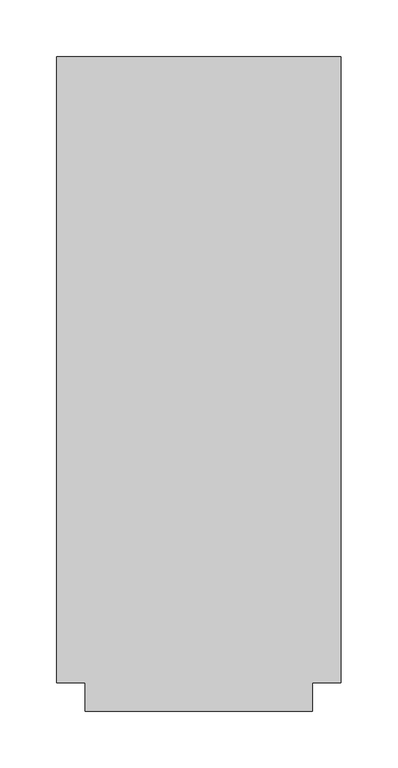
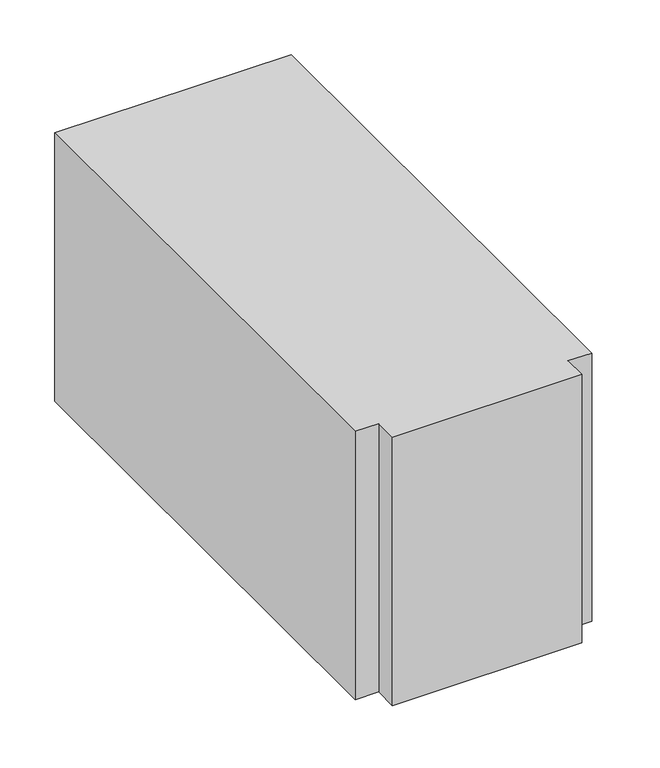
"""IFC4 building model written with IfcOpenShell, lengths in millimetres: duct fitting geometry, M_Te rectangular : Estándar."""

from ifc_helpers import new_model, si_unit, frame, origin, place, context, project, spatial, polyline, outline, extrude, source, transform, mapped, element, save


def duct_fitting_b321fa99(model_context):
    return source(origin(), model_context, "Body", "SweptSolid", [
        extrude(outline(polyline([(-125.0, -275.0), (-125.0, 275.0), (125.0, 275.0), (125.0, -275.0), (100.0, -275.0), (100.0, -300.0), (-100.0, -300.0), (-100.0, -275.0), (-125.0, -275.0)])), frame((0.0, 0.0, -150.0), z_axis=(0.0, 0.0, 1.0), x_axis=(1.0, 0.0, 0.0)), (0.0, 0.0, 1.0), 300.0),
    ])


if __name__ == "__main__":
    model = new_model("IFC4")
    model_context = context("Model", 3, world=origin())
    ifc_project = project(units=[si_unit("LENGTHUNIT", "METRE", prefix="MILLI")], contexts=[model_context])
    site = spatial("IfcSite", under=ifc_project)
    building = spatial("IfcBuilding", under=site)
    placement = place(None, origin())
    duct_fitting_shape = duct_fitting_b321fa99(model_context)
    element("IfcDuctFitting", 1, ObjectType="M_Te rectangular : Estándar", at=placement, inside=building, context=model_context, shape_type="MappedRepresentation", body=[
        mapped(duct_fitting_shape, transform((0.0, 0.0, 0.0), x_axis=(1.0, 0.0, 0.0), y_axis=(0.0, 1.0, 0.0), z_axis=(0.0, 0.0, 1.0))),
    ])
    save(model, "model.ifc")
